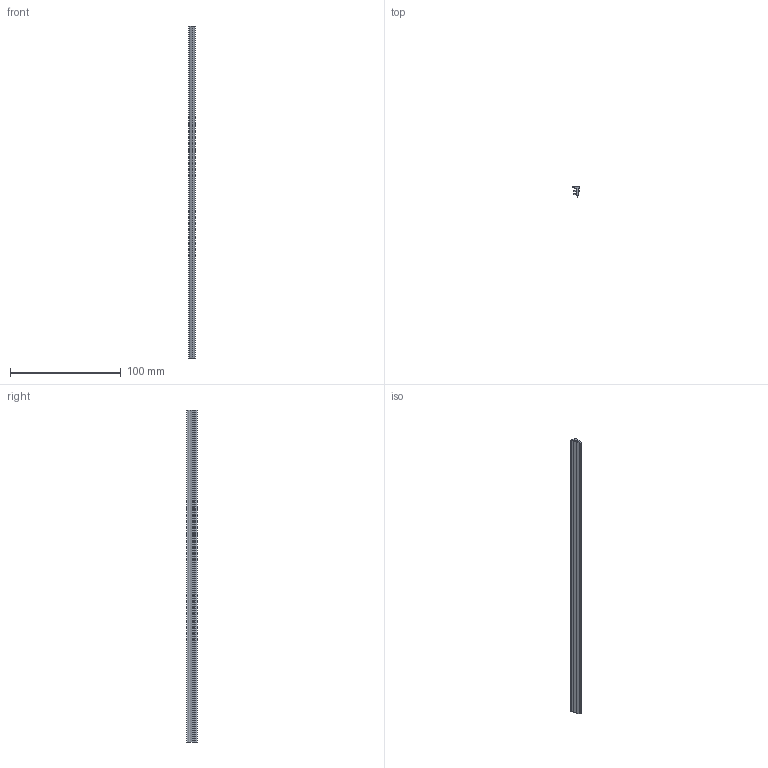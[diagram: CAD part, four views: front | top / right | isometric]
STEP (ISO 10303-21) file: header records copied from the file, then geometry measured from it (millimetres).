
FILE_DESCRIPTION (( 'STEP AP203' ), '1' );
FILE_NAME ('189-CE-8K4.STEP', '2015-07-09T09:19:39', ( '' ), ( '' ), 'SwSTEP 2.0', 'SolidWorks 2013', '' );
FILE_SCHEMA (( 'CONFIG_CONTROL_DESIGN' ));
Length unit declared in the file: millimetre
Products named in the file (1): 189-CE-8K4
Bounding box: 5.93 x 9.76 x 300 mm (x, y, z)
Volume: 6763.4 mm3; surface area: 11649.9 mm2
Topology: 1 solids, 1 shells, 34 faces, 96 edges, 64 vertices
Faces by surface type: cylinder 19, plane 15
Entity records: 1195 total; most frequent: DIRECTION 204, CARTESIAN_POINT 195, ORIENTED_EDGE 192, EDGE_CURVE 96, AXIS2_PLACEMENT_3D 73, VERTEX_POINT 64, LINE 58, VECTOR 58
